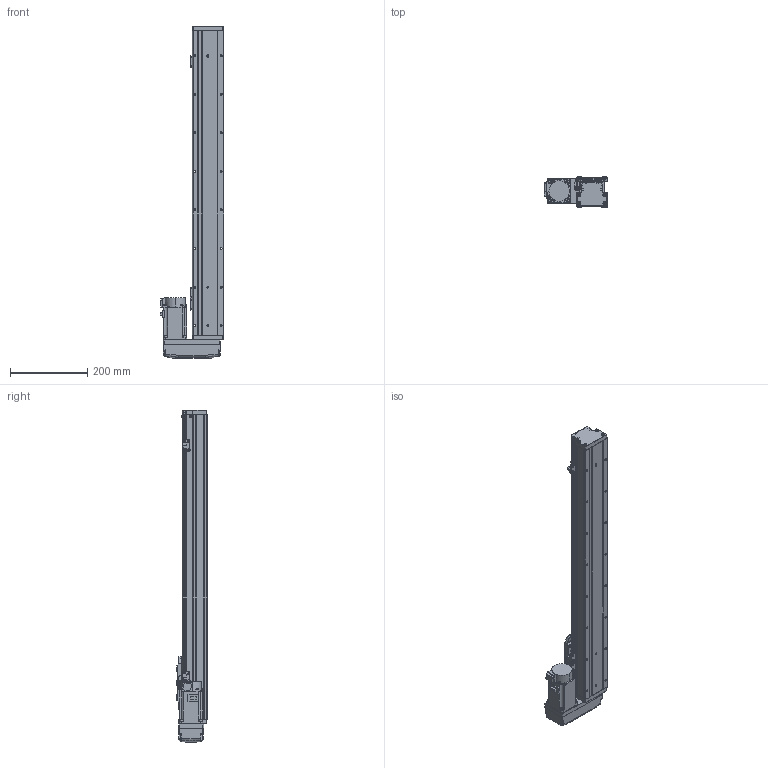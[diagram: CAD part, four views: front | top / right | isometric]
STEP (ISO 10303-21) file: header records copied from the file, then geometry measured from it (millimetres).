
FILE_DESCRIPTION (( 'STEP AP203' ), '1' );
FILE_NAME ('GTH8-600-BL-M20-C4.step', '2022-09-23T01:00:53', ( '微软用户' ), ( '微软中国' ), 'SwSTEP 2.0', 'SolidWorks 2020', '' );
FILE_SCHEMA (( 'CONFIG_CONTROL_DESIGN' ));
Length unit declared in the file: millimetre
Products named in the file (18): GTH80-013; GTH50-023; GBT 70.3-M3℅6; GBT96.1-2002 3×0.8; GTH80-022; BTH-M3X5X6; GTH80-001_600; GBT 70.1-M3℅6; hg-kn43j_-s100_; GTH80-003; GBT 70.1-M4×16; CTHA86-015-1_CTHA86-015-2; GTH80-004; GTH80-028; CTHA86-033_M40B; GTH80-006; GTH50-024; GTH8-600-BL-M20-C4
Assembly tree (57 placements, depth 2):
  GTH8-600-BL-M20-C4
    GTH80-001_600
    GTH80-003
    GTH80-004
    GTH80-006
    GTH80-013
    GBT 70.3-M3℅6  x4
    GTH80-022
    GBT 70.1-M3℅6  x14
    GBT 70.1-M4×16  x8
    GTH80-028  x2
    GTH50-024  x3
    GTH50-023  x3
    GBT96.1-2002 3×0.8  x6
    BTH-M3X5X6  x8
    hg-kn43j_-s100_
    CTHA86-015-1_CTHA86-015-2
    CTHA86-033_M40B
Bounding box: 164.8 x 78 x 861 mm (x, y, z)
Volume: 4410667.2 mm3; surface area: 463096.1 mm2
Topology: 59 solids, 59 shells, 2240 faces, 5175 edges, 3171 vertices
Faces by surface type: plane 1187, cylinder 611, cone 260, torus 166, bspline 8, sphere 8
Entity records: 40922 total; most frequent: CARTESIAN_POINT 7193, DIRECTION 6649, ORIENTED_EDGE 6168, EDGE_CURVE 3084, AXIS2_PLACEMENT_3D 2325, LINE 1999, VECTOR 1999, VERTEX_POINT 1946
